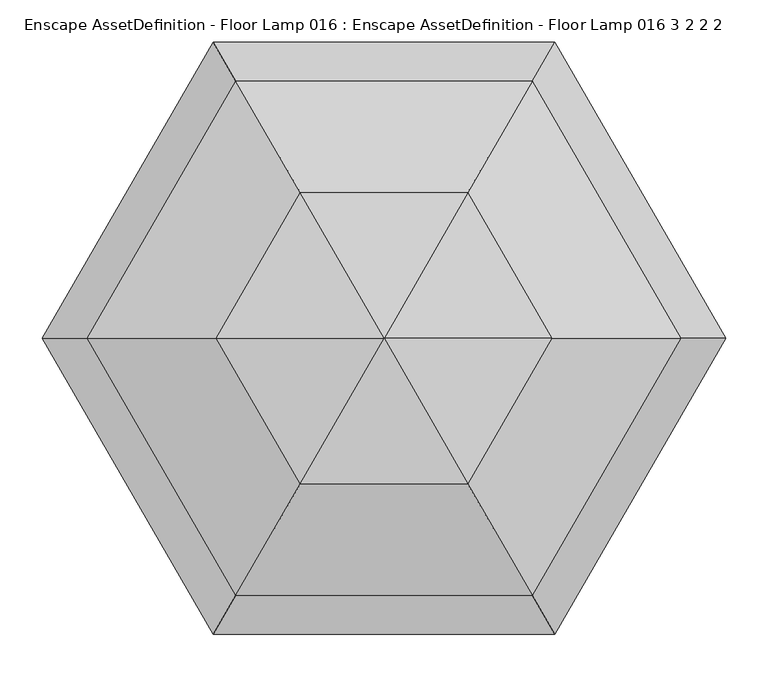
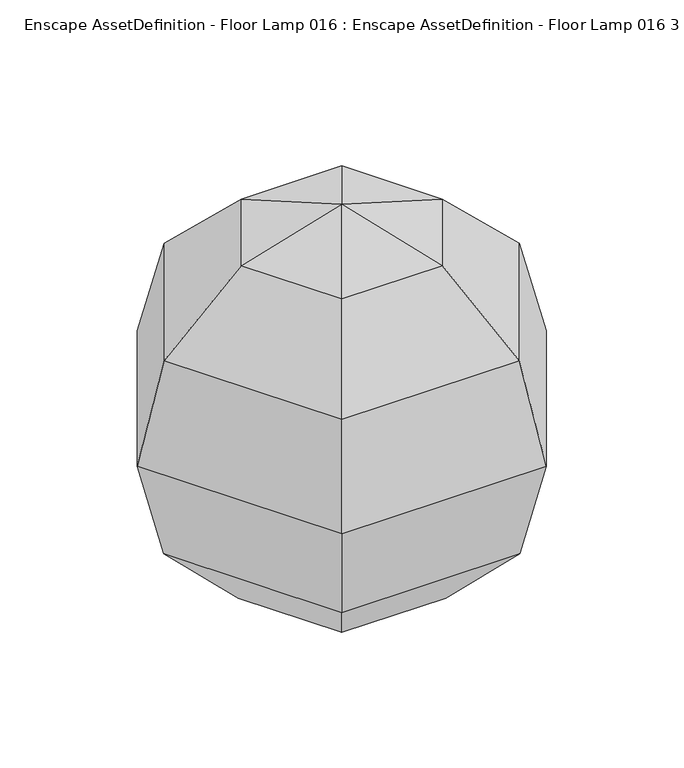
"""IFC4 building model written with IfcOpenShell, lengths in millimetres: geographic element geometry, Enscape AssetDefinition - Floor Lamp 016 : Enscape AssetDefinition - Floor Lamp 016 3 2 2 2."""

from ifc_helpers import new_model, si_unit, origin, place, context, project, spatial, triangles, source, transform, mapped, element, save


def enscape_assetdefinition_floor_lamp_016_enscape_ae26f4ef(model_context):
    return source(origin(), model_context, "Body", "Tessellation", [
        triangles([(-175.3925101, -303.7881068, 546.2671652), (-350.7841481, 0.0, 546.2671652), (-404.2941813, 0.0, 344.5159987), (-175.3916562, 303.7881068, 546.2671652), (0.0, 0.0, 750.0000057), (-198.7046954, 0.0, 691.4550327), (-99.3527656, -172.0832099, 691.4550327), (-99.3519208, 172.0832099, 691.4550327), (-202.1466728, 350.1292826, 344.5159987), (-102.5038723, 177.5417067, -0.609808), (-175.74545, 304.4005149, 142.7835085), (-205.0077446, 0.0, -0.609808), (175.74545, 304.4005149, 142.7835085), (202.1475267, 350.1292826, 344.5159987), (102.5038723, 177.5417067, -0.609808), (404.2941813, 0.0, 344.5159987), (102.5038723, -177.5417067, -0.609808), (-351.4917721, 0.0, 142.7835085), (-102.5038723, -177.5417067, -0.609808), (351.4917721, 0.0, 142.7835085), (175.74545, -304.4005149, 142.7835085), (205.0077446, 0.0, -0.609808), (175.3925101, 303.7881068, 546.2671652), (-202.1475267, -350.1292826, 344.5159987), (202.1466728, -350.1292826, 344.5159987), (-175.7463221, -304.4005149, 142.7835085), (175.3916562, -303.7881068, 546.2671652), (198.7046954, 0.0, 691.4550327), (350.7841481, 0.0, 546.2671652), (99.3527656, 172.0832099, 691.4550327), (99.3519208, -172.0832099, 691.4550327)], [[5, 7, 31], [1, 31, 7], [5, 31, 28], [5, 30, 8], [5, 28, 30], [23, 8, 30], [29, 23, 30], [29, 30, 28], [27, 29, 28], [1, 27, 31], [27, 28, 31], [24, 27, 1], [18, 26, 24], [18, 19, 26], [26, 19, 17], [21, 17, 22], [26, 17, 21], [26, 21, 25], [24, 25, 27], [26, 25, 24], [25, 29, 27], [25, 16, 29], [16, 23, 29], [25, 21, 20], [21, 22, 20], [25, 20, 16], [15, 22, 17], [20, 22, 15], [17, 19, 12], [18, 12, 19], [12, 15, 17], [12, 10, 15], [13, 15, 10], [16, 20, 13], [20, 15, 13], [16, 14, 23], [16, 13, 14], [11, 10, 12], [14, 13, 11], [11, 12, 18], [13, 10, 11], [11, 18, 3], [18, 24, 3], [11, 3, 9], [14, 11, 9], [14, 9, 4], [23, 4, 8], [14, 4, 23], [5, 8, 6], [5, 6, 7], [4, 6, 8], [9, 3, 2], [2, 3, 24], [4, 2, 6], [2, 1, 7], [9, 2, 4], [2, 24, 1], [2, 7, 6]]),
    ])


if __name__ == "__main__":
    model = new_model("IFC4")
    model_context = context("Model", 3, world=origin())
    ifc_project = project(units=[si_unit("LENGTHUNIT", "METRE", prefix="MILLI")], contexts=[model_context])
    site = spatial("IfcSite", under=ifc_project)
    building = spatial("IfcBuilding", under=site)
    placement = place(None, origin())
    enscape_assetdefinition_floor_lamp_016_enscape_shape = enscape_assetdefinition_floor_lamp_016_enscape_ae26f4ef(model_context)
    element("IfcGeographicElement", 1, ObjectType="Enscape AssetDefinition - Floor Lamp 016 : Enscape AssetDefinition - Floor Lamp 016 3 2 2 2", at=placement, inside=building, context=model_context, shape_type="MappedRepresentation", body=[
        mapped(enscape_assetdefinition_floor_lamp_016_enscape_shape, transform((0.0, 0.0, 0.0), x_axis=(1.0, 0.0, 0.0), y_axis=(0.0, 1.0, 0.0), z_axis=(0.0, 0.0, 1.0))),
    ])
    save(model, "model.ifc")
